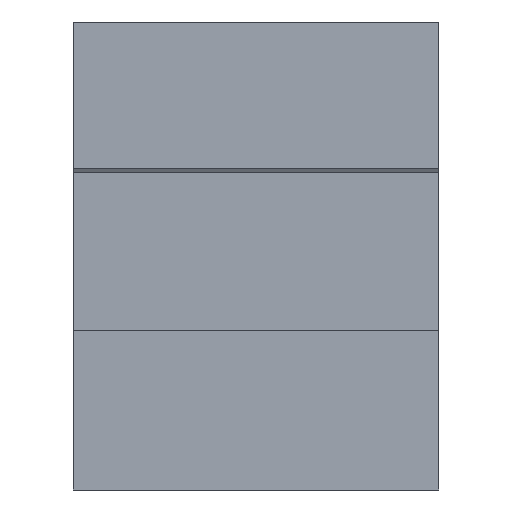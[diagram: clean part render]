
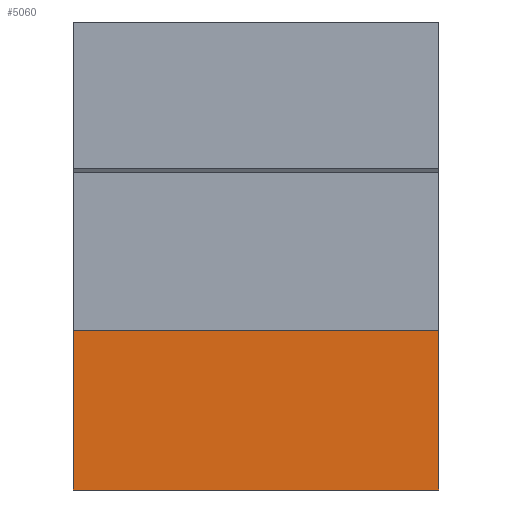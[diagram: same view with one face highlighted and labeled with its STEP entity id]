
A CAD part, front view. The second image highlights one B-rep face of the part: STEP entity #5060.
In plain terms, the highlighted planar face has unit normal (0, -1, 0).
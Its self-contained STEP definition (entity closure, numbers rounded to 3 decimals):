
#131 = DIRECTION ( 'NONE',  ( 1., 0., 0. ) ) ;
#434 = EDGE_LOOP ( 'NONE', ( #3364, #5828, #9202, #3426 ) ) ;
#646 = AXIS2_PLACEMENT_3D ( 'NONE', #9455, #5104, #707 ) ;
#707 = DIRECTION ( 'NONE',  ( 0., 0., 1. ) ) ;
#918 = DIRECTION ( 'NONE',  ( 0., 0., -1. ) ) ;
#1122 = VECTOR ( 'NONE', #8656, 1000. ) ;
#1967 = VECTOR ( 'NONE', #131, 1000. ) ;
#2445 = LINE ( 'NONE', #6006, #1967 ) ;
#2573 = VERTEX_POINT ( 'NONE', #5234 ) ;
#2896 = CARTESIAN_POINT ( 'NONE',  ( 39., -29.1, -50. ) ) ;
#2914 = DIRECTION ( 'NONE',  ( 0., 0., -1. ) ) ;
#3364 = ORIENTED_EDGE ( 'NONE', *, *, #4482, .F. ) ;
#3426 = ORIENTED_EDGE ( 'NONE', *, *, #6079, .F. ) ;
#3984 = CARTESIAN_POINT ( 'NONE',  ( -39., -29.1, -50. ) ) ;
#4125 = EDGE_CURVE ( 'NONE', #6654, #2573, #2445, .T. ) ;
#4482 = EDGE_CURVE ( 'NONE', #2573, #5471, #8909, .T. ) ;
#4703 = EDGE_CURVE ( 'NONE', #6654, #4788, #5155, .T. ) ;
#4788 = VERTEX_POINT ( 'NONE', #3984 ) ;
#5018 = LINE ( 'NONE', #2896, #1122 ) ;
#5060 = ADVANCED_FACE ( 'NONE', ( #8209 ), #6533, .F. ) ;
#5104 = DIRECTION ( 'NONE',  ( 0., 1., 0. ) ) ;
#5155 = LINE ( 'NONE', #6032, #7086 ) ;
#5234 = CARTESIAN_POINT ( 'NONE',  ( 39., -29.1, -15.938 ) ) ;
#5276 = VECTOR ( 'NONE', #2914, 1000. ) ;
#5471 = VERTEX_POINT ( 'NONE', #8572 ) ;
#5828 = ORIENTED_EDGE ( 'NONE', *, *, #4125, .F. ) ;
#6006 = CARTESIAN_POINT ( 'NONE',  ( -39., -29.1, -15.938 ) ) ;
#6032 = CARTESIAN_POINT ( 'NONE',  ( -39., -29.1, 50. ) ) ;
#6079 = EDGE_CURVE ( 'NONE', #5471, #4788, #5018, .T. ) ;
#6509 = CARTESIAN_POINT ( 'NONE',  ( 39., -29.1, 50. ) ) ;
#6533 = PLANE ( 'NONE',  #646 ) ;
#6654 = VERTEX_POINT ( 'NONE', #7935 ) ;
#7086 = VECTOR ( 'NONE', #918, 1000. ) ;
#7935 = CARTESIAN_POINT ( 'NONE',  ( -39., -29.1, -15.938 ) ) ;
#8209 = FACE_OUTER_BOUND ( 'NONE', #434, .T. ) ;
#8572 = CARTESIAN_POINT ( 'NONE',  ( 39., -29.1, -50. ) ) ;
#8656 = DIRECTION ( 'NONE',  ( -1., 0., 0. ) ) ;
#8909 = LINE ( 'NONE', #6509, #5276 ) ;
#9202 = ORIENTED_EDGE ( 'NONE', *, *, #4703, .T. ) ;
#9455 = CARTESIAN_POINT ( 'NONE',  ( 39., -29.1, 50. ) ) ;
